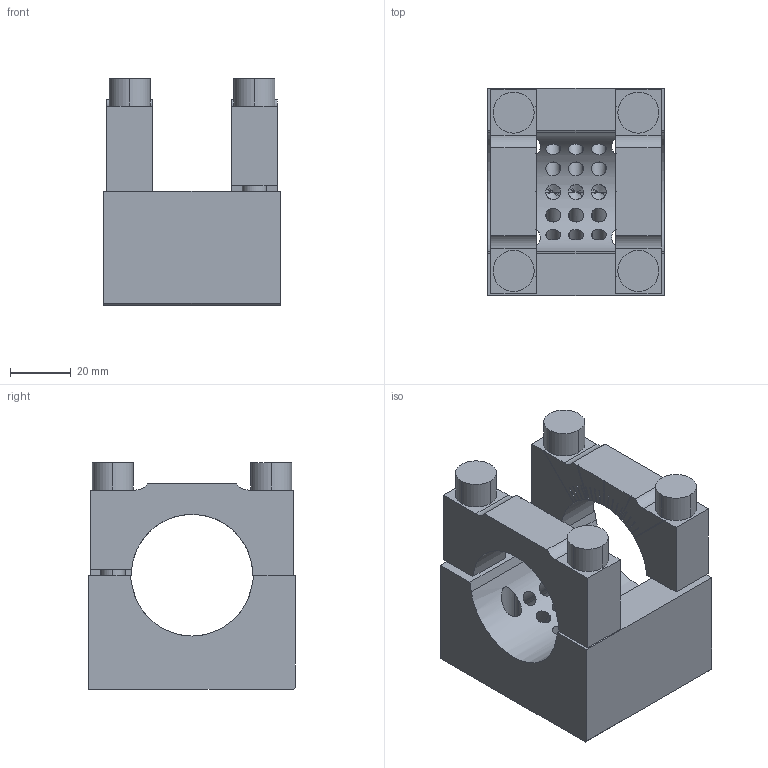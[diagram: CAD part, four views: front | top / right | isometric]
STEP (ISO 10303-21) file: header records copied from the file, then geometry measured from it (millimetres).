
FILE_DESCRIPTION(('STEP AP214'),'1');
FILE_NAME('EGT248_1720320_RD40_FL58.CATPart.stp','2015-09-14T13:15:34',('3D-Tool'),(' '),'Spatial InterOp 3D',' ',' ');
FILE_SCHEMA(('automotive_design'));
Length unit declared in the file: millimetre
Products named in the file (7): EGT248_1720320_RD40_FL58|EGT248_RD40_FL58|Bohrbearbeitung; EGT248_1720320_RD40_FL58|EGT206_SCHELLE_RD40_2|Assemble.113; EGT248_1720320_RD40_FL58|EGT206_SCHELLE_RD40_1|Assemble.114; 1; 2; 3; 4
Bounding box: 58 x 68 x 74.5 mm (x, y, z)
Volume: 144311 mm3; surface area: 45439.2 mm2
Topology: 7 solids, 7 shells, 445 faces, 1165 edges, 673 vertices
Faces by surface type: cylinder 171, plane 166, cone 108
Entity records: 18187 total; most frequent: CARTESIAN_POINT 4120, ORIENTED_EDGE 2162, DIRECTION 2119, EDGE_CURVE 1081, AXIS2_PLACEMENT_3D 762, VERTEX_POINT 673, LINE 595, VECTOR 595
